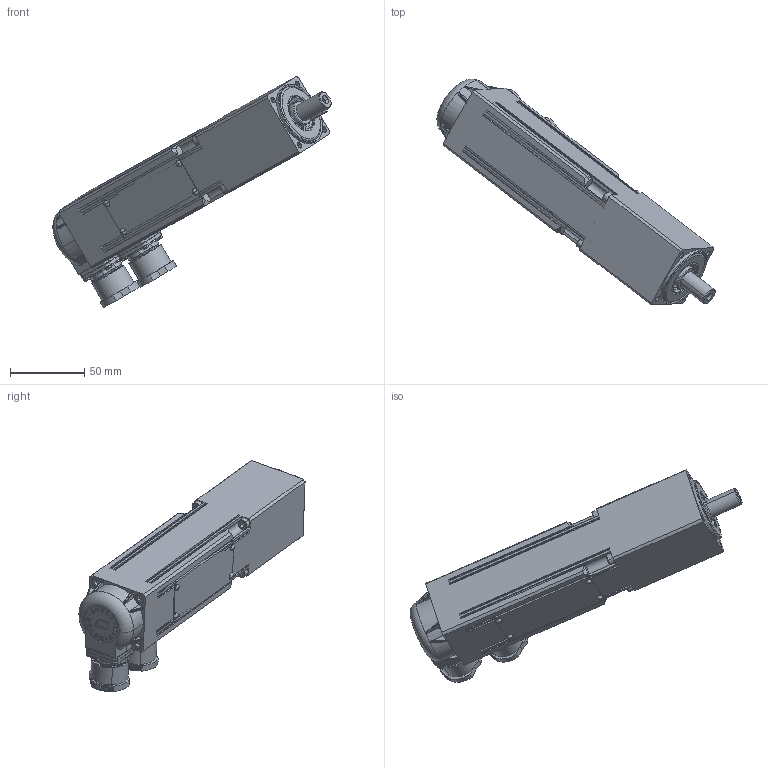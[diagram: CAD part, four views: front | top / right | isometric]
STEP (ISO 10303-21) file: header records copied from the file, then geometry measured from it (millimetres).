
FILE_DESCRIPTION((''),'2;1');
FILE_NAME('C:\Documents and Settings\marco\Desktop\DATI\DATI MARCO\Disegni inventor\STEP\BSE45\BSE45_70RC-2 stadi.stp','2003-08-26T16:13:17',('Administrator'),(''),'Autodesk Inventor 7','Autodesk Inventor 7','');
FILE_SCHEMA(('AUTOMOTIVE_DESIGN { 1 0 10303 214 1 1 1 1 }'));
Length unit declared in the file: millimetre
Products named in the file (1): BSE45_70RC-2 stadi
Bounding box: 187.52 x 152.47 x 155.95 mm (x, y, z)
Volume: 209087.5 mm3; surface area: 115167.5 mm2
Topology: 43 solids, 43 shells, 3352 faces, 9008 edges, 5842 vertices
Faces by surface type: plane 1784, cylinder 806, bspline 389, cone 274, torus 99
Entity records: 115181 total; most frequent: CARTESIAN_POINT 30738, ORIENTED_EDGE 17960, DIRECTION 17489, EDGE_CURVE 8980, AXIS2_PLACEMENT_3D 5915, VERTEX_POINT 5842, VECTOR 5659, LINE 5659
